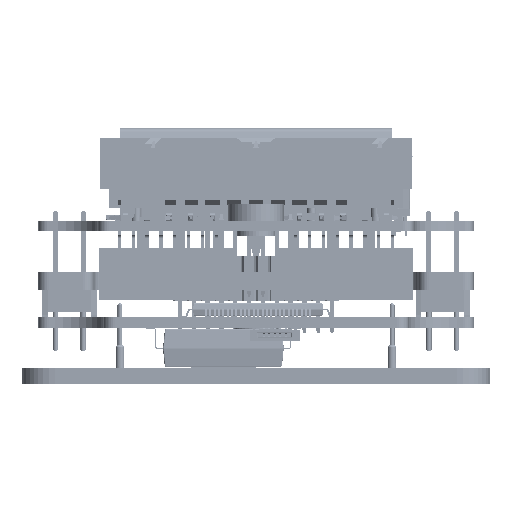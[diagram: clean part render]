
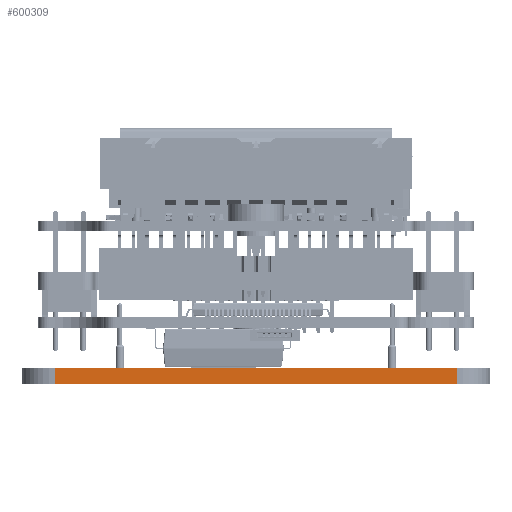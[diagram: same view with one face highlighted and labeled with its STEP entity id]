
A CAD part, front view. The second image highlights one B-rep face of the part: STEP entity #600309.
In plain terms, the highlighted planar face has unit normal (0, -1, 0) as drawn and (0, 0, 1) by its records, which use the part's own axes.
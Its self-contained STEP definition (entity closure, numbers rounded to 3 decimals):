
#598206 = PLANE('',#598207);
#598207 = AXIS2_PLACEMENT_3D('',#598208,#598209,#598210);
#598208 = CARTESIAN_POINT('',(0.,1.5,0.));
#598209 = DIRECTION('',(0.,1.,0.));
#598210 = DIRECTION('',(0.,0.,1.));
#598322 = PLANE('',#598323);
#598323 = AXIS2_PLACEMENT_3D('',#598324,#598325,#598326);
#598324 = CARTESIAN_POINT('',(0.,0.,0.));
#598325 = DIRECTION('',(0.,1.,0.));
#598326 = DIRECTION('',(0.,0.,1.));
#600210 = CYLINDRICAL_SURFACE('',#600211,3.);
#600211 = AXIS2_PLACEMENT_3D('',#600212,#600213,#600214);
#600212 = CARTESIAN_POINT('',(3.,1.5,-3.));
#600213 = DIRECTION('',(0.,-1.,0.));
#600214 = DIRECTION('',(0.,0.,-1.));
#600309 = ADVANCED_FACE('',(#600310),#600324,.F.);
#600310 = FACE_BOUND('',#600311,.T.);
#600311 = EDGE_LOOP('',(#600312,#600342,#600387,#600410));
#600312 = ORIENTED_EDGE('',*,*,#600313,.F.);
#600313 = EDGE_CURVE('',#600314,#600316,#600318,.T.);
#600314 = VERTEX_POINT('',#600315);
#600315 = CARTESIAN_POINT('',(3.,1.5,0.));
#600316 = VERTEX_POINT('',#600317);
#600317 = CARTESIAN_POINT('',(40.,1.5,0.));
#600318 = SURFACE_CURVE('',#600319,(#600323,#600335),.PCURVE_S1.);
#600319 = LINE('',#600320,#600321);
#600320 = CARTESIAN_POINT('',(0.,1.5,0.));
#600321 = VECTOR('',#600322,1.);
#600322 = DIRECTION('',(1.,0.,0.));
#600323 = PCURVE('',#600324,#600329);
#600324 = PLANE('',#600325);
#600325 = AXIS2_PLACEMENT_3D('',#600326,#600327,#600328);
#600326 = CARTESIAN_POINT('',(0.,1.5,0.));
#600327 = DIRECTION('',(0.,0.,-1.));
#600328 = DIRECTION('',(-1.,0.,0.));
#600329 = DEFINITIONAL_REPRESENTATION('',(#600330),#600334);
#600330 = LINE('',#600331,#600332);
#600331 = CARTESIAN_POINT('',(0.,0.));
#600332 = VECTOR('',#600333,1.);
#600333 = DIRECTION('',(-1.,0.));
#600334 = ( GEOMETRIC_REPRESENTATION_CONTEXT(2) 
PARAMETRIC_REPRESENTATION_CONTEXT() REPRESENTATION_CONTEXT('2D SPACE',''
  ) );
#600335 = PCURVE('',#598206,#600336);
#600336 = DEFINITIONAL_REPRESENTATION('',(#600337),#600341);
#600337 = LINE('',#600338,#600339);
#600338 = CARTESIAN_POINT('',(0.,0.));
#600339 = VECTOR('',#600340,1.);
#600340 = DIRECTION('',(0.,1.));
#600341 = ( GEOMETRIC_REPRESENTATION_CONTEXT(2) 
PARAMETRIC_REPRESENTATION_CONTEXT() REPRESENTATION_CONTEXT('2D SPACE',''
  ) );
#600342 = ORIENTED_EDGE('',*,*,#600343,.T.);
#600343 = EDGE_CURVE('',#600314,#600344,#600346,.T.);
#600344 = VERTEX_POINT('',#600345);
#600345 = CARTESIAN_POINT('',(3.,0.,0.));
#600346 = SURFACE_CURVE('',#600347,(#600351,#600358),.PCURVE_S1.);
#600347 = LINE('',#600348,#600349);
#600348 = CARTESIAN_POINT('',(3.,1.5,0.));
#600349 = VECTOR('',#600350,1.);
#600350 = DIRECTION('',(0.,-1.,0.));
#600351 = PCURVE('',#600324,#600352);
#600352 = DEFINITIONAL_REPRESENTATION('',(#600353),#600357);
#600353 = LINE('',#600354,#600355);
#600354 = CARTESIAN_POINT('',(-3.,0.));
#600355 = VECTOR('',#600356,1.);
#600356 = DIRECTION('',(0.,-1.));
#600357 = ( GEOMETRIC_REPRESENTATION_CONTEXT(2) 
PARAMETRIC_REPRESENTATION_CONTEXT() REPRESENTATION_CONTEXT('2D SPACE',''
  ) );
#600358 = PCURVE('',#600210,#600359);
#600359 = DEFINITIONAL_REPRESENTATION('',(#600360),#600386);
#600360 = B_SPLINE_CURVE_WITH_KNOTS('',3,(#600361,#600362,#600363,
    #600364,#600365,#600366,#600367,#600368,#600369,#600370,#600371,
    #600372,#600373,#600374,#600375,#600376,#600377,#600378,#600379,
    #600380,#600381,#600382,#600383,#600384,#600385),.UNSPECIFIED.,.F.,
  .F.,(4,1,1,1,1,1,1,1,1,1,1,1,1,1,1,1,1,1,1,1,1,1,4),(0.,
    0.068,0.136,0.205,0.273,
    0.341,0.409,0.477,0.545,
    0.614,0.682,0.75,0.818,0.886,
    0.955,1.023,1.091,1.159,
    1.227,1.295,1.364,1.432,1.5),
  .QUASI_UNIFORM_KNOTS.);
#600361 = CARTESIAN_POINT('',(3.142,0.));
#600362 = CARTESIAN_POINT('',(3.142,0.023));
#600363 = CARTESIAN_POINT('',(3.142,0.068));
#600364 = CARTESIAN_POINT('',(3.142,0.136));
#600365 = CARTESIAN_POINT('',(3.142,0.205));
#600366 = CARTESIAN_POINT('',(3.142,0.273));
#600367 = CARTESIAN_POINT('',(3.142,0.341));
#600368 = CARTESIAN_POINT('',(3.142,0.409));
#600369 = CARTESIAN_POINT('',(3.142,0.477));
#600370 = CARTESIAN_POINT('',(3.142,0.545));
#600371 = CARTESIAN_POINT('',(3.142,0.614));
#600372 = CARTESIAN_POINT('',(3.142,0.682));
#600373 = CARTESIAN_POINT('',(3.142,0.75));
#600374 = CARTESIAN_POINT('',(3.142,0.818));
#600375 = CARTESIAN_POINT('',(3.142,0.886));
#600376 = CARTESIAN_POINT('',(3.142,0.955));
#600377 = CARTESIAN_POINT('',(3.142,1.023));
#600378 = CARTESIAN_POINT('',(3.142,1.091));
#600379 = CARTESIAN_POINT('',(3.142,1.159));
#600380 = CARTESIAN_POINT('',(3.142,1.227));
#600381 = CARTESIAN_POINT('',(3.142,1.295));
#600382 = CARTESIAN_POINT('',(3.142,1.364));
#600383 = CARTESIAN_POINT('',(3.142,1.432));
#600384 = CARTESIAN_POINT('',(3.142,1.477));
#600385 = CARTESIAN_POINT('',(3.142,1.5));
#600386 = ( GEOMETRIC_REPRESENTATION_CONTEXT(2) 
PARAMETRIC_REPRESENTATION_CONTEXT() REPRESENTATION_CONTEXT('2D SPACE',''
  ) );
#600387 = ORIENTED_EDGE('',*,*,#600388,.T.);
#600388 = EDGE_CURVE('',#600344,#600389,#600391,.T.);
#600389 = VERTEX_POINT('',#600390);
#600390 = CARTESIAN_POINT('',(40.,0.,0.));
#600391 = SURFACE_CURVE('',#600392,(#600396,#600403),.PCURVE_S1.);
#600392 = LINE('',#600393,#600394);
#600393 = CARTESIAN_POINT('',(0.,0.,0.));
#600394 = VECTOR('',#600395,1.);
#600395 = DIRECTION('',(1.,0.,0.));
#600396 = PCURVE('',#600324,#600397);
#600397 = DEFINITIONAL_REPRESENTATION('',(#600398),#600402);
#600398 = LINE('',#600399,#600400);
#600399 = CARTESIAN_POINT('',(0.,-1.5));
#600400 = VECTOR('',#600401,1.);
#600401 = DIRECTION('',(-1.,0.));
#600402 = ( GEOMETRIC_REPRESENTATION_CONTEXT(2) 
PARAMETRIC_REPRESENTATION_CONTEXT() REPRESENTATION_CONTEXT('2D SPACE',''
  ) );
#600403 = PCURVE('',#598322,#600404);
#600404 = DEFINITIONAL_REPRESENTATION('',(#600405),#600409);
#600405 = LINE('',#600406,#600407);
#600406 = CARTESIAN_POINT('',(0.,0.));
#600407 = VECTOR('',#600408,1.);
#600408 = DIRECTION('',(0.,1.));
#600409 = ( GEOMETRIC_REPRESENTATION_CONTEXT(2) 
PARAMETRIC_REPRESENTATION_CONTEXT() REPRESENTATION_CONTEXT('2D SPACE',''
  ) );
#600410 = ORIENTED_EDGE('',*,*,#600411,.T.);
#600411 = EDGE_CURVE('',#600389,#600316,#600412,.T.);
#600412 = SURFACE_CURVE('',#600413,(#600417,#600424),.PCURVE_S1.);
#600413 = LINE('',#600414,#600415);
#600414 = CARTESIAN_POINT('',(40.,1.5,0.));
#600415 = VECTOR('',#600416,1.);
#600416 = DIRECTION('',(0.,1.,0.));
#600417 = PCURVE('',#600324,#600418);
#600418 = DEFINITIONAL_REPRESENTATION('',(#600419),#600423);
#600419 = LINE('',#600420,#600421);
#600420 = CARTESIAN_POINT('',(-40.,0.));
#600421 = VECTOR('',#600422,1.);
#600422 = DIRECTION('',(0.,1.));
#600423 = ( GEOMETRIC_REPRESENTATION_CONTEXT(2) 
PARAMETRIC_REPRESENTATION_CONTEXT() REPRESENTATION_CONTEXT('2D SPACE',''
  ) );
#600424 = PCURVE('',#600425,#600430);
#600425 = CYLINDRICAL_SURFACE('',#600426,3.);
#600426 = AXIS2_PLACEMENT_3D('',#600427,#600428,#600429);
#600427 = CARTESIAN_POINT('',(40.,1.5,-3.));
#600428 = DIRECTION('',(0.,-1.,0.));
#600429 = DIRECTION('',(0.,0.,-1.));
#600430 = DEFINITIONAL_REPRESENTATION('',(#600431),#600457);
#600431 = B_SPLINE_CURVE_WITH_KNOTS('',3,(#600432,#600433,#600434,
    #600435,#600436,#600437,#600438,#600439,#600440,#600441,#600442,
    #600443,#600444,#600445,#600446,#600447,#600448,#600449,#600450,
    #600451,#600452,#600453,#600454,#600455,#600456),.UNSPECIFIED.,.F.,
  .F.,(4,1,1,1,1,1,1,1,1,1,1,1,1,1,1,1,1,1,1,1,1,1,4),(-1.5,
    -1.432,-1.364,-1.295,-1.227,
    -1.159,-1.091,-1.023,-0.955,
    -0.886,-0.818,-0.75,-0.682,
    -0.614,-0.545,-0.477,-0.409,
    -0.341,-0.273,-0.205,-0.136,
    -0.068,0.),.UNSPECIFIED.);
#600432 = CARTESIAN_POINT('',(3.142,1.5));
#600433 = CARTESIAN_POINT('',(3.142,1.477));
#600434 = CARTESIAN_POINT('',(3.142,1.432));
#600435 = CARTESIAN_POINT('',(3.142,1.364));
#600436 = CARTESIAN_POINT('',(3.142,1.295));
#600437 = CARTESIAN_POINT('',(3.142,1.227));
#600438 = CARTESIAN_POINT('',(3.142,1.159));
#600439 = CARTESIAN_POINT('',(3.142,1.091));
#600440 = CARTESIAN_POINT('',(3.142,1.023));
#600441 = CARTESIAN_POINT('',(3.142,0.955));
#600442 = CARTESIAN_POINT('',(3.142,0.886));
#600443 = CARTESIAN_POINT('',(3.142,0.818));
#600444 = CARTESIAN_POINT('',(3.142,0.75));
#600445 = CARTESIAN_POINT('',(3.142,0.682));
#600446 = CARTESIAN_POINT('',(3.142,0.614));
#600447 = CARTESIAN_POINT('',(3.142,0.545));
#600448 = CARTESIAN_POINT('',(3.142,0.477));
#600449 = CARTESIAN_POINT('',(3.142,0.409));
#600450 = CARTESIAN_POINT('',(3.142,0.341));
#600451 = CARTESIAN_POINT('',(3.142,0.273));
#600452 = CARTESIAN_POINT('',(3.142,0.205));
#600453 = CARTESIAN_POINT('',(3.142,0.136));
#600454 = CARTESIAN_POINT('',(3.142,0.068));
#600455 = CARTESIAN_POINT('',(3.142,0.023));
#600456 = CARTESIAN_POINT('',(3.142,0.));
#600457 = ( GEOMETRIC_REPRESENTATION_CONTEXT(2) 
PARAMETRIC_REPRESENTATION_CONTEXT() REPRESENTATION_CONTEXT('2D SPACE',''
  ) );
